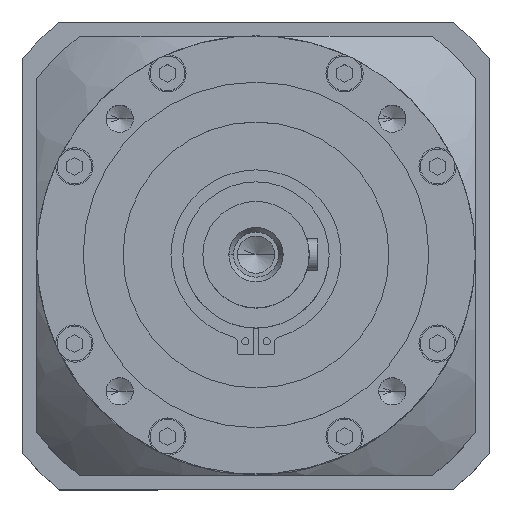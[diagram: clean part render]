
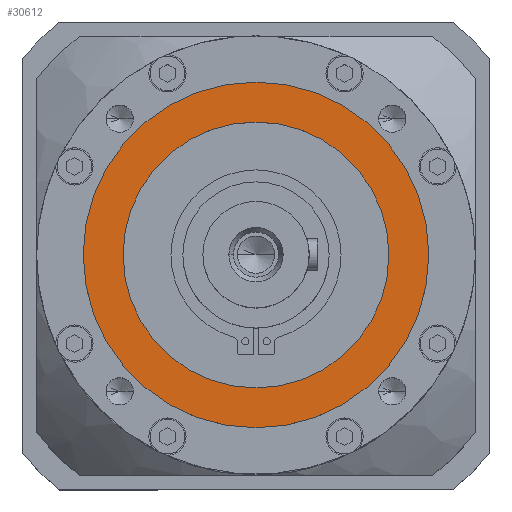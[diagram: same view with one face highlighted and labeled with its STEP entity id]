
A CAD part, top view. The second image highlights one B-rep face of the part: STEP entity #30612.
In plain terms, the highlighted planar face has unit normal (0, 0, 1).
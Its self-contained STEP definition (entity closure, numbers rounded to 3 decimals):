
#43 = DIRECTION ( 'NONE',  ( 0., 0., 1. ) ) ;
#412 = CARTESIAN_POINT ( 'NONE',  ( 0., 0., 0. ) ) ;
#2195 = CARTESIAN_POINT ( 'NONE',  ( -50., 0., 0. ) ) ;
#2466 = ORIENTED_EDGE ( 'NONE', *, *, #9699, .F. ) ;
#3107 = DIRECTION ( 'NONE',  ( 1., 0., 0. ) ) ;
#3427 = DIRECTION ( 'NONE',  ( 0., 0., -1. ) ) ;
#3759 = CIRCLE ( 'NONE', #10053, 50. ) ;
#5522 = ORIENTED_EDGE ( 'NONE', *, *, #26273, .F. ) ;
#8264 = CIRCLE ( 'NONE', #22500, 65. ) ;
#9699 = EDGE_CURVE ( 'NONE', #17959, #10665, #20125, .T. ) ;
#10053 = AXIS2_PLACEMENT_3D ( 'NONE', #15836, #43, #18474 ) ;
#10665 = VERTEX_POINT ( 'NONE', #18644 ) ;
#12323 = CARTESIAN_POINT ( 'NONE',  ( 0., 50., 0. ) ) ;
#13598 = VERTEX_POINT ( 'NONE', #2195 ) ;
#14762 = CARTESIAN_POINT ( 'NONE',  ( 0., 0., 0. ) ) ;
#14840 = PLANE ( 'NONE',  #29231 ) ;
#15426 = DIRECTION ( 'NONE',  ( -1., 0., 0. ) ) ;
#15836 = CARTESIAN_POINT ( 'NONE',  ( 0., 0., 0. ) ) ;
#17367 = DIRECTION ( 'NONE',  ( 1., 0., 0. ) ) ;
#17959 = VERTEX_POINT ( 'NONE', #25677 ) ;
#18474 = DIRECTION ( 'NONE',  ( 1., 0., 0. ) ) ;
#18644 = CARTESIAN_POINT ( 'NONE',  ( -65., 0., 0. ) ) ;
#18819 = DIRECTION ( 'NONE',  ( 0., 0., -1. ) ) ;
#19112 = CARTESIAN_POINT ( 'NONE',  ( 0., 0., 0. ) ) ;
#20125 = CIRCLE ( 'NONE', #21606, 65. ) ;
#21606 = AXIS2_PLACEMENT_3D ( 'NONE', #412, #18819, #3107 ) ;
#21652 = ORIENTED_EDGE ( 'NONE', *, *, #25772, .F. ) ;
#21720 = DIRECTION ( 'NONE',  ( 1., 0., 0. ) ) ;
#22500 = AXIS2_PLACEMENT_3D ( 'NONE', #19112, #3427, #21720 ) ;
#22988 = FACE_BOUND ( 'NONE', #27439, .T. ) ;
#24561 = EDGE_LOOP ( 'NONE', ( #2466, #21652 ) ) ;
#24800 = ORIENTED_EDGE ( 'NONE', *, *, #33532, .F. ) ;
#25677 = CARTESIAN_POINT ( 'NONE',  ( 65., 0., 0. ) ) ;
#25772 = EDGE_CURVE ( 'NONE', #10665, #17959, #8264, .T. ) ;
#26273 = EDGE_CURVE ( 'NONE', #13598, #26840, #28825, .T. ) ;
#26840 = VERTEX_POINT ( 'NONE', #33076 ) ;
#27439 = EDGE_LOOP ( 'NONE', ( #24800, #5522 ) ) ;
#27869 = AXIS2_PLACEMENT_3D ( 'NONE', #14762, #32697, #17367 ) ;
#28825 = CIRCLE ( 'NONE', #27869, 50. ) ;
#29231 = AXIS2_PLACEMENT_3D ( 'NONE', #12323, #30758, #15426 ) ;
#29756 = FACE_OUTER_BOUND ( 'NONE', #24561, .T. ) ;
#30612 = ADVANCED_FACE ( 'NONE', ( #29756, #22988 ), #14840, .F. ) ;
#30758 = DIRECTION ( 'NONE',  ( 0., 0., -1. ) ) ;
#32697 = DIRECTION ( 'NONE',  ( 0., 0., 1. ) ) ;
#33076 = CARTESIAN_POINT ( 'NONE',  ( 50., 0., 0. ) ) ;
#33532 = EDGE_CURVE ( 'NONE', #26840, #13598, #3759, .T. ) ;
